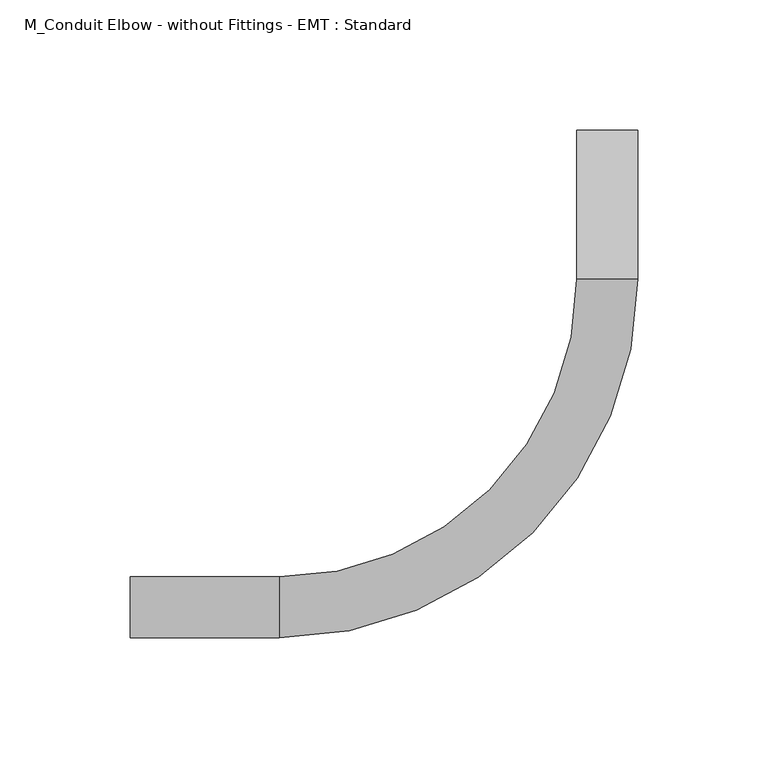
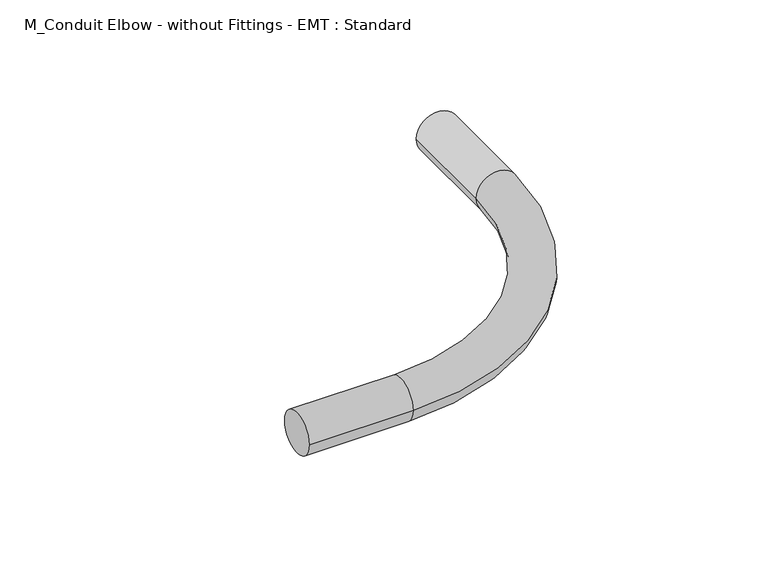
"""IFC4 building model written with IfcOpenShell, lengths in millimetres: cable carrier fitting geometry, M_Conduit Elbow - without Fittings - EMT : Standard."""

from ifc_helpers import new_model, si_unit, point, frame, origin, place, context, project, spatial, circle_curve, ellipse_curve, trimmed, source, transform, mapped, element, save
from ifc_brep_helpers import plane_surface, cylinder_surface, revolved_surface, advanced_brep


def m_conduit_elbow_without_fittings_emt_standard_b68e504c(model_context):
    return source(origin(), model_context, "Body", "AdvancedBrep", [
        advanced_brep(
        [(-183.16, -11.7094, 0.0), (-183.16, 11.7094, 0.0), (-126.01, -11.7094, 0.0), (-126.01, 11.7094, 0.0), (-11.7094, 126.01, 0.0), (11.7094, 126.01, 0.0), (11.7094, 183.16, 0.0), (-11.7094, 183.16, 0.0)],
        [
            (0, 1, circle_curve(frame((-183.16, 0.0, 0.0), z_axis=(-1.0, 0.0, 0.0), x_axis=(0.0, 1.0, 0.0)), 11.7094)),
            (1, 0, circle_curve(frame((-183.16, 0.0, 0.0), z_axis=(-1.0, 0.0, 0.0), x_axis=(0.0, 1.0, 0.0)), 11.7094)),
            (0, 2),
            (2, 3, circle_curve(frame((-126.01, 0.0, 0.0), z_axis=(-1.0, 0.0, 0.0), x_axis=(0.0, 1.0, 0.0)), 11.7094)),
            (3, 1),
            (3, 2, circle_curve(frame((-126.01, 0.0, 0.0), z_axis=(-1.0, 0.0, 0.0), x_axis=(0.0, 1.0, 0.0)), 11.7094)),
            (4, 3, circle_curve(frame((-126.01, 126.01, 0.0), z_axis=(0.0, 0.0, -1.0), x_axis=(0.0, -1.0, 0.0)), 114.3006)),
            (2, 5, circle_curve(frame((-126.01, 126.01, 0.0), z_axis=(0.0, 0.0, 1.0), x_axis=(0.0, -1.0, 0.0)), 137.7194)),
            (5, 4, circle_curve(frame((0.0, 126.01, 0.0), z_axis=(0.0, -1.0, 0.0), x_axis=(-1.0, 0.0, 0.0)), 11.7094)),
            (4, 5, circle_curve(frame((0.0, 126.01, 0.0), z_axis=(0.0, -1.0, 0.0), x_axis=(-1.0, 0.0, 0.0)), 11.7094)),
            (6, 7, circle_curve(frame((0.0, 183.16, 0.0), z_axis=(0.0, 1.0, 0.0), x_axis=(-1.0, 0.0, 0.0)), 11.7094)),
            (7, 6, circle_curve(frame((0.0, 183.16, 0.0), z_axis=(0.0, 1.0, 0.0), x_axis=(-1.0, 0.0, 0.0)), 11.7094)),
            (5, 6),
            (7, 4),
        ],
        [
            plane_surface(frame((-183.16, 0.0, 0.0), z_axis=(-1.0, 0.0, 0.0), x_axis=(0.0, 0.0, 1.0))),
            cylinder_surface(frame((-183.16, 0.0, 0.0), z_axis=(-1.0, 0.0, 0.0), x_axis=(0.0, 1.0, 0.0)), 11.7094),
            revolved_surface(trimmed(ellipse_curve(frame((-126.01, 0.0, 0.0), z_axis=(-1.0, 0.0, 0.0), x_axis=(0.0, 1.0, 0.0)), 11.7094, 11.7094), [point((-126.01, -11.7094, 0.0))], [point((-126.01, 11.7094, 0.0))], True, "CARTESIAN"), (-126.01, 126.01, 0.0), (0.0, 0.0, 1.0)),
            revolved_surface(trimmed(ellipse_curve(frame((-126.01, 0.0, 0.0), z_axis=(-1.0, 0.0, 0.0), x_axis=(0.0, 1.0, 0.0)), 11.7094, 11.7094), [point((-126.01, 11.7094, 0.0))], [point((-126.01, -11.7094, 0.0))], True, "CARTESIAN"), (-126.01, 126.01, 0.0), (0.0, 0.0, 1.0)),
            plane_surface(frame((0.0, 183.16, 0.0), z_axis=(0.0, 1.0, 0.0), x_axis=(0.0, 0.0, 1.0))),
            cylinder_surface(frame((0.0, 126.01, 0.0), z_axis=(0.0, -1.0, 0.0), x_axis=(-1.0, 0.0, 0.0)), 11.7094),
        ],
        [
            (0, [[1, 2]]),
            (1, [[-1, 3, 4, 5]]),
            (1, [[-2, -5, 6, -3]]),
            (2, [[7, -4, 8, 9]]),
            (3, [[-8, -6, -7, 10]]),
            (4, [[11, 12]]),
            (5, [[-9, 13, -12, 14]]),
            (5, [[-10, -14, -11, -13]]),
        ],
    ),
    ])


if __name__ == "__main__":
    model = new_model("IFC4")
    model_context = context("Model", 3, world=origin())
    ifc_project = project(units=[si_unit("LENGTHUNIT", "METRE", prefix="MILLI")], contexts=[model_context])
    site = spatial("IfcSite", under=ifc_project)
    building = spatial("IfcBuilding", under=site)
    placement = place(None, origin())
    m_conduit_elbow_without_fittings_emt_standard_shape = m_conduit_elbow_without_fittings_emt_standard_b68e504c(model_context)
    element("IfcCableCarrierFitting", 1, ObjectType="M_Conduit Elbow - without Fittings - EMT : Standard", at=placement, inside=building, context=model_context, shape_type="MappedRepresentation", body=[
        mapped(m_conduit_elbow_without_fittings_emt_standard_shape, transform((0.0, 0.0, 0.0), x_axis=(1.0, 0.0, 0.0), y_axis=(0.0, 1.0, 0.0), z_axis=(0.0, 0.0, 1.0))),
    ])
    save(model, "model.ifc")
